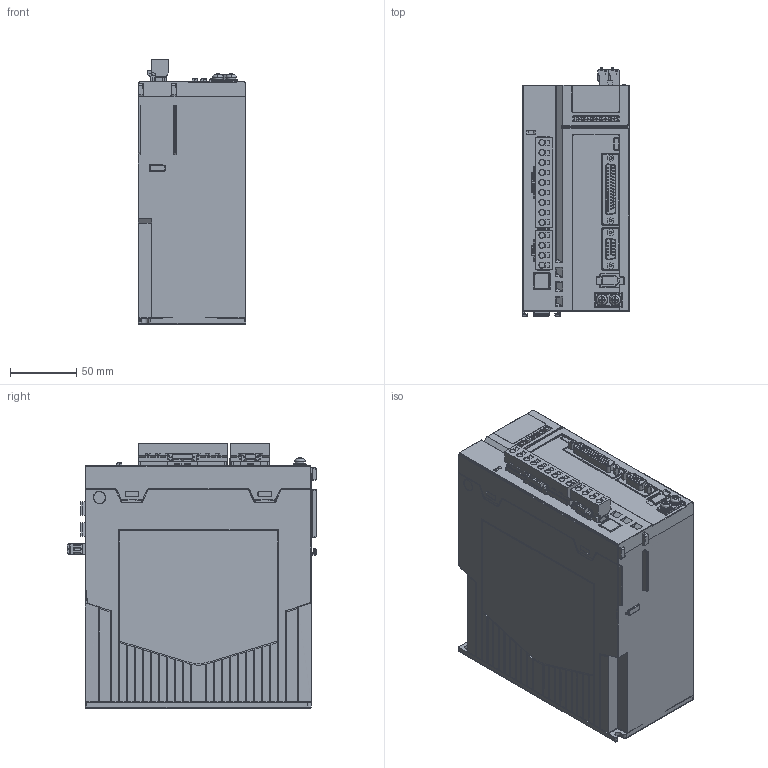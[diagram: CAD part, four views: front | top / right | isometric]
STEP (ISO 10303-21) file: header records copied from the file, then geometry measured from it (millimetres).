
FILE_DESCRIPTION((''),'2;1');
FILE_NAME('SV670P-SIZE-D-FS_ASM','2024-02-03T',('10009991'),(''),'CREO PARAMETRIC BY PTC INC, 2015290','CREO PARAMETRIC BY PTC INC, 2015290','');
FILE_SCHEMA(('AUTOMOTIVE_DESIGN { 1 0 10303 214 1 1 1 1 }'));
Products named in the file (7): MSBR-5_1_1_2; MSBR-4_1_1_2; MSBR-3_1_1_2; MSBR-2_1_1_2; MSBR-1_1_1_2; PXC_1707854_01_FMCD-4PIN_3_1; SV670P-SIZE-D-FS_ASM
Assembly tree (6 placements, depth 2):
  SV670P-SIZE-D-FS_ASM
    MSBR-5_1_1_2
    MSBR-4_1_1_2
    MSBR-3_1_1_2
    MSBR-2_1_1_2
    MSBR-1_1_1_2
    PXC_1707854_01_FMCD-4PIN_3_1
Bounding box: 81 x 187.65 x 199.2 mm (x, y, z)
Volume: 2494516.1 mm3; surface area: 160941 mm2
Topology: 6 solids, 7 shells, 3859 faces, 10263 edges, 6515 vertices
Faces by surface type: plane 2425, cylinder 945, bspline 150, extrusion 142, sphere 71, torus 64, cone 62
Entity records: 177248 total; most frequent: CARTESIAN_POINT 52351, ORIENTED_EDGE 20368, DIRECTION 18005, EDGE_CURVE 10184, VECTOR 7461, LINE 7319, VERTEX_POINT 6515, AXIS2_PLACEMENT_3D 5272
